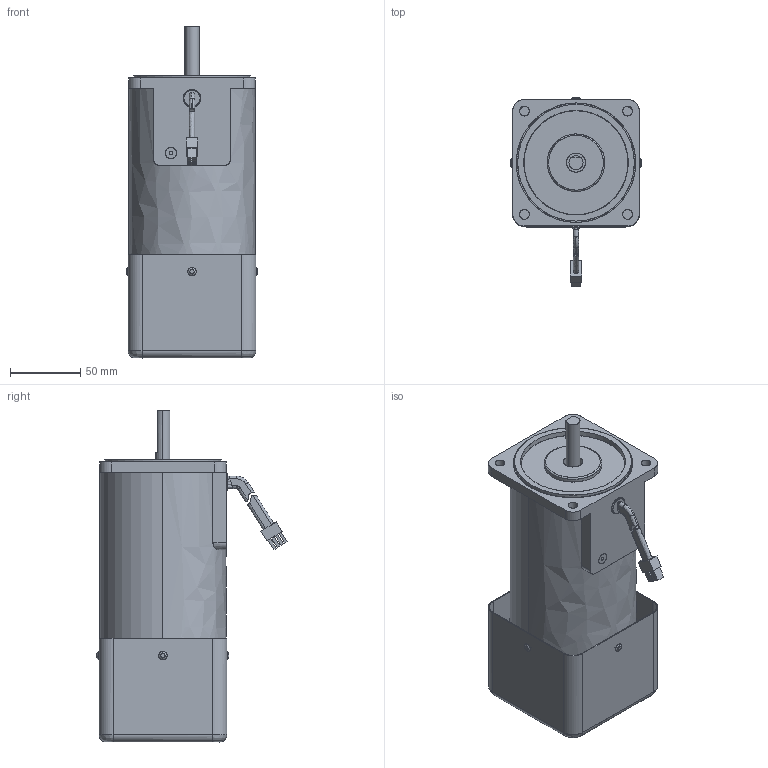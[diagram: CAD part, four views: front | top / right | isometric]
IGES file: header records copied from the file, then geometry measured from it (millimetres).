
Start section: SolidWorks IGES file using analytic representation for surfaces
Global section: file name: \\楷备家烹钦辑滚\data (D)\档搁 枚\权其捞瘤 档搁\7. SPEED INDUCTION\90\180W\(7-119) 9SDD∴-180F2.IGS; native system: SolidWorks 2007; preprocessor: SolidWorks 2007; author: user; date: 150709.100347; units: millimetre
Bounding box: 94 x 135.4 x 236.5 mm (x, y, z)
Surface area: 189875.8 mm2 (no closed solid volume)
Topology: 0 solids, 0 shells, 394 faces, 6996 edges, 6996 vertices
Faces by surface type: revolution 236, bspline 158
